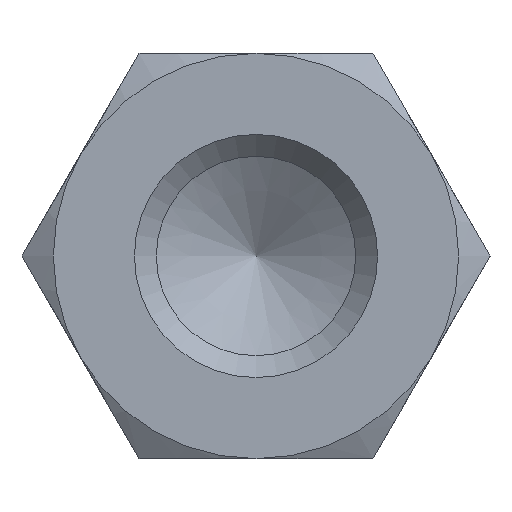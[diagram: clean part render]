
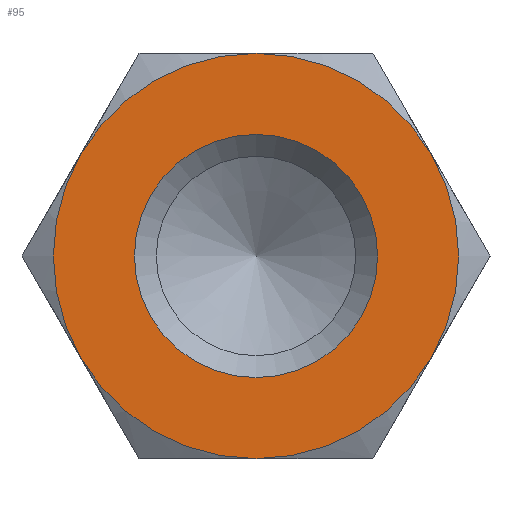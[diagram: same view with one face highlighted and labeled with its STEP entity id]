
A CAD part, left-side view. The second image highlights one B-rep face of the part: STEP entity #95.
In plain terms, the highlighted planar face has unit normal (-1, 0, 0).
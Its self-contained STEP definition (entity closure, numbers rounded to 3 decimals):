
#95 = ADVANCED_FACE( '', ( #147, #148 ), #149, .F. );
#147 = FACE_OUTER_BOUND( '', #206, .T. );
#148 = FACE_BOUND( '', #207, .T. );
#149 = PLANE( '', #208 );
#206 = EDGE_LOOP( '', ( #356, #357, #358, #359, #360, #361 ) );
#207 = EDGE_LOOP( '', ( #362 ) );
#208 = AXIS2_PLACEMENT_3D( '', #363, #364, #365 );
#356 = ORIENTED_EDGE( '', *, *, #440, .F. );
#357 = ORIENTED_EDGE( '', *, *, #425, .F. );
#358 = ORIENTED_EDGE( '', *, *, #441, .F. );
#359 = ORIENTED_EDGE( '', *, *, #437, .F. );
#360 = ORIENTED_EDGE( '', *, *, #442, .F. );
#361 = ORIENTED_EDGE( '', *, *, #443, .F. );
#362 = ORIENTED_EDGE( '', *, *, #439, .T. );
#363 = CARTESIAN_POINT( '', ( -35., 0., 0. ) );
#364 = DIRECTION( '', ( 1., 0., 0. ) );
#365 = DIRECTION( '', ( 0., 0., -1. ) );
#425 = EDGE_CURVE( '', #495, #493, #497, .T. );
#437 = EDGE_CURVE( '', #447, #506, #513, .T. );
#439 = EDGE_CURVE( '', #516, #516, #517, .T. );
#440 = EDGE_CURVE( '', #493, #486, #518, .T. );
#441 = EDGE_CURVE( '', #506, #495, #519, .T. );
#442 = EDGE_CURVE( '', #481, #447, #520, .T. );
#443 = EDGE_CURVE( '', #486, #481, #521, .T. );
#447 = VERTEX_POINT( '', #525 );
#481 = VERTEX_POINT( '', #601 );
#486 = VERTEX_POINT( '', #617 );
#493 = VERTEX_POINT( '', #642 );
#495 = VERTEX_POINT( '', #647 );
#497 = CIRCLE( '', #654, 5. );
#506 = VERTEX_POINT( '', #680 );
#513 = CIRCLE( '', #717, 5. );
#516 = VERTEX_POINT( '', #720 );
#517 = CIRCLE( '', #721, 3. );
#518 = CIRCLE( '', #722, 5. );
#519 = CIRCLE( '', #723, 5. );
#520 = CIRCLE( '', #724, 5. );
#521 = CIRCLE( '', #725, 5. );
#525 = CARTESIAN_POINT( '', ( -35., -4.33, 2.5 ) );
#601 = CARTESIAN_POINT( '', ( -35., 0., 5. ) );
#617 = CARTESIAN_POINT( '', ( -35., 4.33, 2.5 ) );
#642 = CARTESIAN_POINT( '', ( -35., 4.33, -2.5 ) );
#647 = CARTESIAN_POINT( '', ( -35., 0., -5. ) );
#654 = AXIS2_PLACEMENT_3D( '', #760, #761, #762 );
#680 = CARTESIAN_POINT( '', ( -35., -4.33, -2.5 ) );
#717 = AXIS2_PLACEMENT_3D( '', #765, #766, #767 );
#720 = CARTESIAN_POINT( '', ( -35., 3., 0. ) );
#721 = AXIS2_PLACEMENT_3D( '', #771, #772, #773 );
#722 = AXIS2_PLACEMENT_3D( '', #774, #775, #776 );
#723 = AXIS2_PLACEMENT_3D( '', #777, #778, #779 );
#724 = AXIS2_PLACEMENT_3D( '', #780, #781, #782 );
#725 = AXIS2_PLACEMENT_3D( '', #783, #784, #785 );
#760 = CARTESIAN_POINT( '', ( -35., 0., 0. ) );
#761 = DIRECTION( '', ( 1., 0., 0. ) );
#762 = DIRECTION( '', ( 0., 0., -1. ) );
#765 = CARTESIAN_POINT( '', ( -35., 0., 0. ) );
#766 = DIRECTION( '', ( 1., 0., 0. ) );
#767 = DIRECTION( '', ( 0., 0., -1. ) );
#771 = CARTESIAN_POINT( '', ( -35., 0., 0. ) );
#772 = DIRECTION( '', ( 1., 0., 0. ) );
#773 = DIRECTION( '', ( 0., 1., 0. ) );
#774 = CARTESIAN_POINT( '', ( -35., 0., 0. ) );
#775 = DIRECTION( '', ( 1., 0., 0. ) );
#776 = DIRECTION( '', ( 0., 0., -1. ) );
#777 = CARTESIAN_POINT( '', ( -35., 0., 0. ) );
#778 = DIRECTION( '', ( 1., 0., 0. ) );
#779 = DIRECTION( '', ( 0., 0., -1. ) );
#780 = CARTESIAN_POINT( '', ( -35., 0., 0. ) );
#781 = DIRECTION( '', ( 1., 0., 0. ) );
#782 = DIRECTION( '', ( 0., 0., -1. ) );
#783 = CARTESIAN_POINT( '', ( -35., 0., 0. ) );
#784 = DIRECTION( '', ( 1., 0., 0. ) );
#785 = DIRECTION( '', ( 0., 0., -1. ) );
